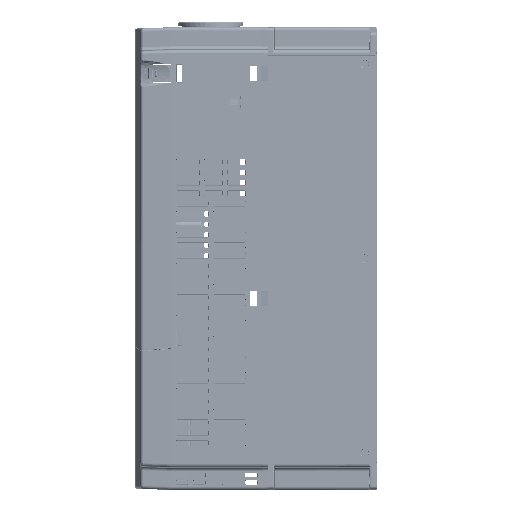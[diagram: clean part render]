
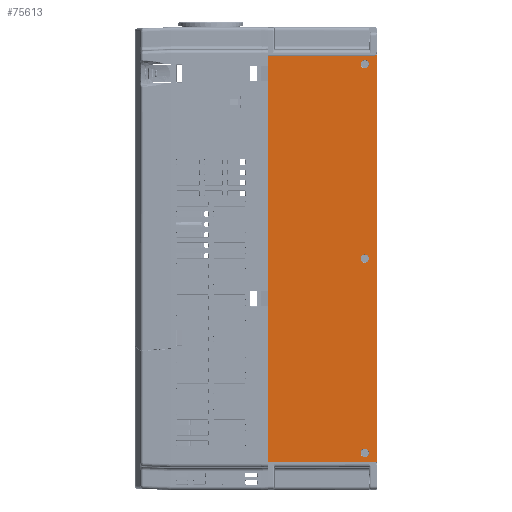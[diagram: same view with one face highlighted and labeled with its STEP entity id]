
A CAD part, left-side view. The second image highlights one B-rep face of the part: STEP entity #75613.
In plain terms, the highlighted planar face has unit normal (-1, 0, 0).
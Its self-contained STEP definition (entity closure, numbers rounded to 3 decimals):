
#13311=DIRECTION('',(0.,-1.,0.));
#13312=VECTOR('',#13311,92.2);
#13313=CARTESIAN_POINT('',(-120.,-5.5,-175.5));
#13314=LINE('',#13313,#13312);
#22570=DIRECTION('',(0.,-1.,0.));
#22571=VECTOR('',#22570,1.2);
#22572=CARTESIAN_POINT('',(-120.,-99.2,176.));
#22573=LINE('',#22572,#22571);
#22577=DIRECTION('',(0.,0.,-1.));
#22578=VECTOR('',#22577,352.);
#22579=CARTESIAN_POINT('',(-120.,-100.4,176.));
#22580=LINE('',#22579,#22578);
#22584=DIRECTION('',(0.,0.,-1.));
#22585=VECTOR('',#22584,1.001);
#22586=CARTESIAN_POINT('',(-120.,-99.2,-176.));
#22587=LINE('',#22586,#22585);
#22591=CARTESIAN_POINT('',(-120.,-99.2,-177.001));
#22592=CARTESIAN_POINT('',(-120.,-99.2,-176.5));
#22593=CARTESIAN_POINT('',(-120.,-98.821,-175.879));
#22594=CARTESIAN_POINT('',(-120.,-98.2,-175.5));
#22595=CARTESIAN_POINT('',(-120.,-97.7,-175.5));
#22600=DIRECTION('',(0.,0.,1.));
#22601=VECTOR('',#22600,351.);
#22602=CARTESIAN_POINT('',(-120.,-5.5,-175.5));
#22603=LINE('',#22602,#22601);
#22607=DIRECTION('',(0.,-1.,0.));
#22608=VECTOR('',#22607,92.2);
#22609=CARTESIAN_POINT('',(-120.,-5.5,175.5));
#22610=LINE('',#22609,#22608);
#22614=CARTESIAN_POINT('',(-120.,-97.7,175.5));
#22615=CARTESIAN_POINT('',(-120.,-98.2,175.5));
#22616=CARTESIAN_POINT('',(-120.,-98.821,175.879));
#22617=CARTESIAN_POINT('',(-120.,-99.2,176.5));
#22618=CARTESIAN_POINT('',(-120.,-99.2,177.001));
#22623=CARTESIAN_POINT('',(-120.,-89.4,168.));
#22624=DIRECTION('',(-1.,0.,0.));
#22625=DIRECTION('',(0.,-1.,0.));
#22626=AXIS2_PLACEMENT_3D('',#22623,#22624,#22625);
#22631=CARTESIAN_POINT('',(-120.,-89.4,168.));
#22632=DIRECTION('',(-1.,0.,0.));
#22633=DIRECTION('',(0.,1.,0.));
#22634=AXIS2_PLACEMENT_3D('',#22631,#22632,#22633);
#22639=CARTESIAN_POINT('',(-120.,-89.4,0.));
#22640=DIRECTION('',(-1.,0.,0.));
#22641=DIRECTION('',(0.,-1.,0.));
#22642=AXIS2_PLACEMENT_3D('',#22639,#22640,#22641);
#22647=CARTESIAN_POINT('',(-120.,-89.4,0.));
#22648=DIRECTION('',(-1.,0.,0.));
#22649=DIRECTION('',(0.,1.,0.));
#22650=AXIS2_PLACEMENT_3D('',#22647,#22648,#22649);
#22655=CARTESIAN_POINT('',(-120.,-89.4,-168.));
#22656=DIRECTION('',(-1.,0.,0.));
#22657=DIRECTION('',(0.,-1.,0.));
#22658=AXIS2_PLACEMENT_3D('',#22655,#22656,#22657);
#22663=CARTESIAN_POINT('',(-120.,-89.4,-168.));
#22664=DIRECTION('',(-1.,0.,0.));
#22665=DIRECTION('',(0.,1.,0.));
#22666=AXIS2_PLACEMENT_3D('',#22663,#22664,#22665);
#31641=DIRECTION('',(0.,-1.,0.));
#31642=VECTOR('',#31641,1.2);
#31643=CARTESIAN_POINT('',(-120.,-99.2,-176.));
#31644=LINE('',#31643,#31642);
#32902=DIRECTION('',(0.,0.,1.));
#32903=VECTOR('',#32902,1.001);
#32904=CARTESIAN_POINT('',(-120.,-99.2,176.));
#32905=LINE('',#32904,#32903);
#49364=CARTESIAN_POINT('',(-120.,-5.5,-175.5));
#49365=VERTEX_POINT('',#49364);
#49366=CARTESIAN_POINT('',(-120.,-97.7,-175.5));
#49367=VERTEX_POINT('',#49366);
#49374=CARTESIAN_POINT('',(-120.,-5.5,175.5));
#49375=VERTEX_POINT('',#49374);
#50902=VERTEX_POINT('',#22614);
#50903=VERTEX_POINT('',#22618);
#50904=CARTESIAN_POINT('',(-120.,-99.2,176.));
#50905=CARTESIAN_POINT('',(-120.,-100.4,176.));
#50906=VERTEX_POINT('',#50904);
#50907=VERTEX_POINT('',#50905);
#50908=CARTESIAN_POINT('',(-120.,-100.4,-176.));
#50909=VERTEX_POINT('',#50908);
#50910=CARTESIAN_POINT('',(-120.,-99.2,-176.));
#50911=VERTEX_POINT('',#50910);
#50912=CARTESIAN_POINT('',(-120.,-99.2,-177.001));
#50913=VERTEX_POINT('',#50912);
#50914=CARTESIAN_POINT('',(-120.,-93.,168.));
#50915=CARTESIAN_POINT('',(-120.,-85.8,168.));
#50916=VERTEX_POINT('',#50914);
#50917=VERTEX_POINT('',#50915);
#50918=CARTESIAN_POINT('',(-120.,-93.,0.));
#50919=CARTESIAN_POINT('',(-120.,-85.8,0.));
#50920=VERTEX_POINT('',#50918);
#50921=VERTEX_POINT('',#50919);
#50922=CARTESIAN_POINT('',(-120.,-93.,-168.));
#50923=CARTESIAN_POINT('',(-120.,-85.8,-168.));
#50924=VERTEX_POINT('',#50922);
#50925=VERTEX_POINT('',#50923);
#75571=CARTESIAN_POINT('',(-120.,-100.4,176.5));
#75572=DIRECTION('',(1.,0.,0.));
#75573=DIRECTION('',(0.,1.,0.));
#75574=AXIS2_PLACEMENT_3D('',#75571,#75572,#75573);
#75575=PLANE('',#75574);
#75577=ORIENTED_EDGE('',*,*,#75576,.T.);
#75579=ORIENTED_EDGE('',*,*,#75578,.T.);
#75581=ORIENTED_EDGE('',*,*,#75580,.F.);
#75583=ORIENTED_EDGE('',*,*,#75582,.T.);
#75585=ORIENTED_EDGE('',*,*,#75584,.T.);
#75586=ORIENTED_EDGE('',*,*,#66073,.F.);
#75587=ORIENTED_EDGE('',*,*,#66103,.T.);
#75589=ORIENTED_EDGE('',*,*,#75588,.T.);
#75590=ORIENTED_EDGE('',*,*,#75554,.T.);
#75592=ORIENTED_EDGE('',*,*,#75591,.F.);
#75593=EDGE_LOOP('',(#75577,#75579,#75581,#75583,#75585,#75586,#75587,#75589,
#75590,#75592));
#75594=FACE_OUTER_BOUND('',#75593,.F.);
#75596=ORIENTED_EDGE('',*,*,#75595,.T.);
#75598=ORIENTED_EDGE('',*,*,#75597,.T.);
#75599=EDGE_LOOP('',(#75596,#75598));
#75600=FACE_BOUND('',#75599,.F.);
#75602=ORIENTED_EDGE('',*,*,#75601,.T.);
#75604=ORIENTED_EDGE('',*,*,#75603,.T.);
#75605=EDGE_LOOP('',(#75602,#75604));
#75606=FACE_BOUND('',#75605,.F.);
#75608=ORIENTED_EDGE('',*,*,#75607,.T.);
#75610=ORIENTED_EDGE('',*,*,#75609,.T.);
#75611=EDGE_LOOP('',(#75608,#75610));
#75612=FACE_BOUND('',#75611,.F.);
#22596=B_SPLINE_CURVE_WITH_KNOTS('',3,(#22591,#22592,#22593,#22594,#22595),
.UNSPECIFIED.,.F.,.F.,(4,1,4),(0.,0.5,1.),.UNSPECIFIED.);
#22619=B_SPLINE_CURVE_WITH_KNOTS('',3,(#22614,#22615,#22616,#22617,#22618),
.UNSPECIFIED.,.F.,.F.,(4,1,4),(0.,0.5,1.),.UNSPECIFIED.);
#22627=CIRCLE('',#22626,3.6);
#22635=CIRCLE('',#22634,3.6);
#22643=CIRCLE('',#22642,3.6);
#22651=CIRCLE('',#22650,3.6);
#22659=CIRCLE('',#22658,3.6);
#22667=CIRCLE('',#22666,3.6);
#66073=EDGE_CURVE('',#49365,#49367,#13314,.T.);
#66103=EDGE_CURVE('',#49365,#49375,#22603,.T.);
#75554=EDGE_CURVE('',#50902,#50903,#22619,.T.);
#75576=EDGE_CURVE('',#50906,#50907,#22573,.T.);
#75578=EDGE_CURVE('',#50907,#50909,#22580,.T.);
#75580=EDGE_CURVE('',#50911,#50909,#31644,.T.);
#75582=EDGE_CURVE('',#50911,#50913,#22587,.T.);
#75584=EDGE_CURVE('',#50913,#49367,#22596,.T.);
#75588=EDGE_CURVE('',#49375,#50902,#22610,.T.);
#75591=EDGE_CURVE('',#50906,#50903,#32905,.T.);
#75595=EDGE_CURVE('',#50916,#50917,#22627,.T.);
#75597=EDGE_CURVE('',#50917,#50916,#22635,.T.);
#75601=EDGE_CURVE('',#50920,#50921,#22643,.T.);
#75603=EDGE_CURVE('',#50921,#50920,#22651,.T.);
#75607=EDGE_CURVE('',#50924,#50925,#22659,.T.);
#75609=EDGE_CURVE('',#50925,#50924,#22667,.T.);
#75613=ADVANCED_FACE('',(#75594,#75600,#75606,#75612),#75575,.F.);
